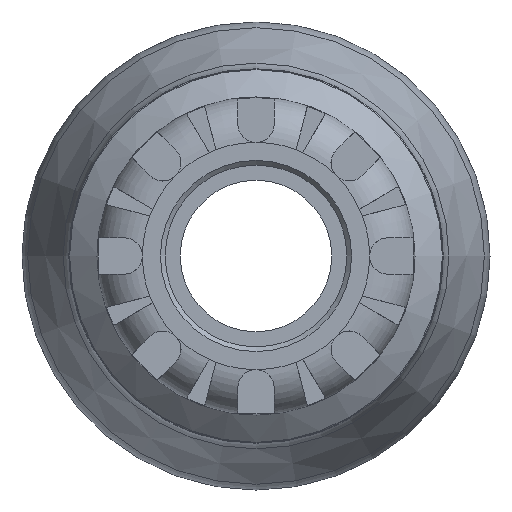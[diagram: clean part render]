
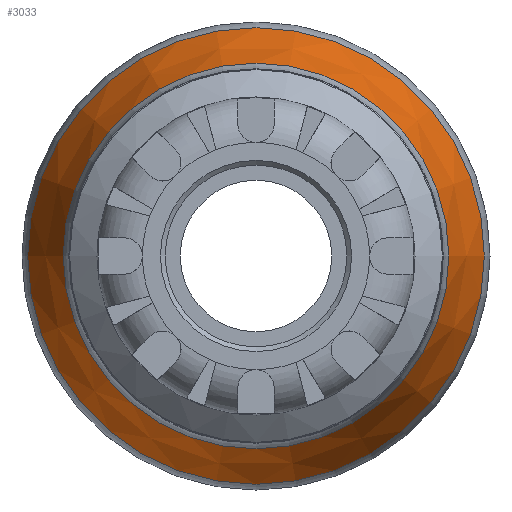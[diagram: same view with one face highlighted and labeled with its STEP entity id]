
A CAD part, left-side view. The second image highlights one B-rep face of the part: STEP entity #3033.
In plain terms, the highlighted conical face has half-angle 20 degrees and reference radius 46.35 mm.
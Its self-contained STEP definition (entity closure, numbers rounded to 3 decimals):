
#331=FACE_OUTER_BOUND('',#508,.T.);
#508=EDGE_LOOP('',(#2147,#2148,#2149,#2150,#2151,#2152,#2153,#2154));
#674=LINE('',#5030,#831);
#831=VECTOR('',#3859,46.35);
#1063=CIRCLE('',#3324,50.258);
#1064=CIRCLE('',#3325,50.258);
#1065=CIRCLE('',#3326,50.258);
#1067=CIRCLE('',#3329,42.442);
#1068=CIRCLE('',#3330,42.442);
#1069=CIRCLE('',#3331,42.442);
#1273=VERTEX_POINT('',#5020);
#1274=VERTEX_POINT('',#5022);
#1275=VERTEX_POINT('',#5024);
#1276=VERTEX_POINT('',#5029);
#1277=VERTEX_POINT('',#5031);
#1278=VERTEX_POINT('',#5033);
#1599=EDGE_CURVE('',#1273,#1274,#1063,.T.);
#1600=EDGE_CURVE('',#1274,#1275,#1064,.T.);
#1601=EDGE_CURVE('',#1275,#1273,#1065,.T.);
#1603=EDGE_CURVE('',#1274,#1276,#674,.T.);
#1604=EDGE_CURVE('',#1277,#1276,#1067,.T.);
#1605=EDGE_CURVE('',#1278,#1277,#1068,.T.);
#1606=EDGE_CURVE('',#1276,#1278,#1069,.T.);
#2147=ORIENTED_EDGE('',*,*,#1601,.F.);
#2148=ORIENTED_EDGE('',*,*,#1600,.F.);
#2149=ORIENTED_EDGE('',*,*,#1603,.T.);
#2150=ORIENTED_EDGE('',*,*,#1604,.F.);
#2151=ORIENTED_EDGE('',*,*,#1605,.F.);
#2152=ORIENTED_EDGE('',*,*,#1606,.F.);
#2153=ORIENTED_EDGE('',*,*,#1603,.F.);
#2154=ORIENTED_EDGE('',*,*,#1599,.F.);
#2858=CONICAL_SURFACE('',#3328,46.35,0.349);
#3033=ADVANCED_FACE('',(#331),#2858,.T.);
#3324=AXIS2_PLACEMENT_3D('',#5023,#3849,#3850);
#3325=AXIS2_PLACEMENT_3D('',#5025,#3851,#3852);
#3326=AXIS2_PLACEMENT_3D('',#5026,#3853,#3854);
#3328=AXIS2_PLACEMENT_3D('',#5028,#3857,#3858);
#3329=AXIS2_PLACEMENT_3D('',#5032,#3860,#3861);
#3330=AXIS2_PLACEMENT_3D('',#5034,#3862,#3863);
#3331=AXIS2_PLACEMENT_3D('',#5035,#3864,#3865);
#3849=DIRECTION('center_axis',(1.,0.,0.));
#3850=DIRECTION('ref_axis',(0.,-1.,0.));
#3851=DIRECTION('center_axis',(1.,0.,0.));
#3852=DIRECTION('ref_axis',(0.,-1.,0.));
#3853=DIRECTION('center_axis',(1.,0.,0.));
#3854=DIRECTION('ref_axis',(0.,-1.,0.));
#3857=DIRECTION('center_axis',(1.,0.,0.));
#3858=DIRECTION('ref_axis',(0.,1.,0.));
#3859=DIRECTION('',(-0.94,0.342,0.));
#3860=DIRECTION('center_axis',(-1.,0.,0.));
#3861=DIRECTION('ref_axis',(0.,-1.,0.));
#3862=DIRECTION('center_axis',(-1.,0.,0.));
#3863=DIRECTION('ref_axis',(0.,-1.,0.));
#3864=DIRECTION('center_axis',(-1.,0.,0.));
#3865=DIRECTION('ref_axis',(0.,-1.,0.));
#5020=CARTESIAN_POINT('',(52.267,0.,50.258));
#5022=CARTESIAN_POINT('',(52.267,-50.258,0.));
#5023=CARTESIAN_POINT('Origin',(52.267,0.,0.));
#5024=CARTESIAN_POINT('',(52.267,50.258,0.));
#5025=CARTESIAN_POINT('Origin',(52.267,0.,0.));
#5026=CARTESIAN_POINT('Origin',(52.267,0.,0.));
#5028=CARTESIAN_POINT('Origin',(41.53,0.,0.));
#5029=CARTESIAN_POINT('',(30.794,-42.442,0.));
#5030=CARTESIAN_POINT('',(41.53,-46.35,0.));
#5031=CARTESIAN_POINT('',(30.794,42.442,0.));
#5032=CARTESIAN_POINT('Origin',(30.794,0.,0.));
#5033=CARTESIAN_POINT('',(30.794,0.,42.442));
#5034=CARTESIAN_POINT('Origin',(30.794,0.,0.));
#5035=CARTESIAN_POINT('Origin',(30.794,0.,0.));
